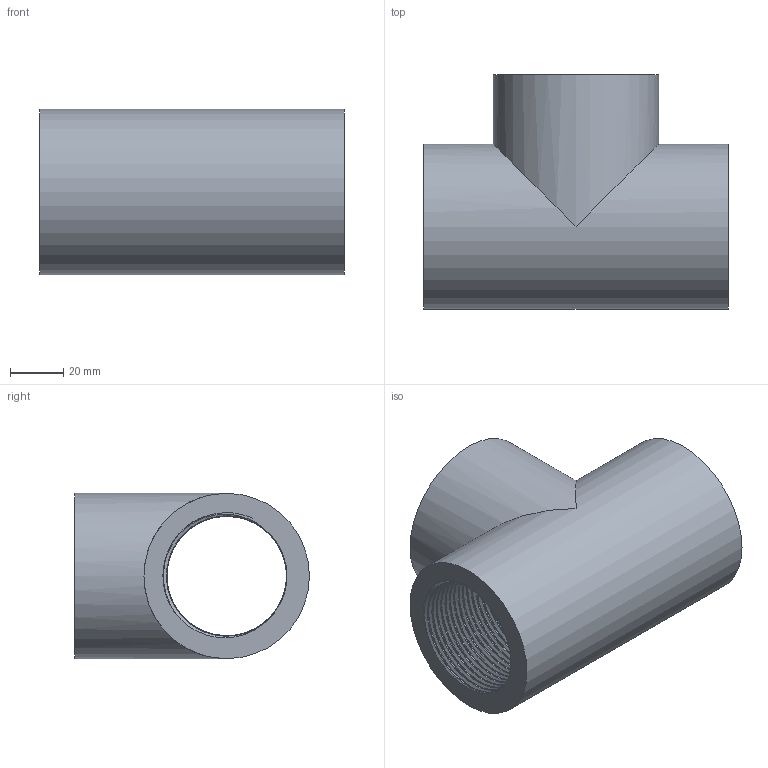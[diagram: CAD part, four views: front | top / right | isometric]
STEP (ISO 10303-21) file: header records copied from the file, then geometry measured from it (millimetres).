
FILE_DESCRIPTION(/* description */ ('(descrizione)'),/* implementation_level */ '2;1');
FILE_NAME(/* name */ 'C:\Users\POLYPIPE\Desktop\DATASET INVENTOR\LIBRERIA EFFAST\RACCORDI 3DxWEB\RER\3D_RERTIE\3D_RERTIE050F.stp',/* time_stamp */ '2018-01-19T17:20:55+01:00',/* author */ ('POLYPIPE'),/* organization */ ('Polypipe Italia s.r.l.'),/* preprocessor_version */ 'ST-DEVELOPER v16.1',/* originating_system */ 'Autodesk Inventor 2016',/* authorisation */ '');
FILE_SCHEMA (('CONFIG_CONTROL_DESIGN'));
Length unit declared in the file: millimetre
Products named in the file (1): 3D_RERTIE
Bounding box: 114 x 88 x 62 mm (x, y, z)
Volume: 186482.8 mm3; surface area: 60125.2 mm2
Topology: 1 solids, 1 shells, 25 faces, 70 edges, 46 vertices
Faces by surface type: bspline 15, plane 6, cylinder 4
Full cylindrical faces by diameter (mm): 44.845 x2, 62 x2
Entity records: 16445 total; most frequent: CARTESIAN_POINT 15928, ORIENTED_EDGE 116, DIRECTION 63, EDGE_CURVE 58, VERTEX_POINT 40, EDGE_LOOP 34, B_SPLINE_CURVE_WITH_KNOTS 33, AXIS2_PLACEMENT_3D 27
